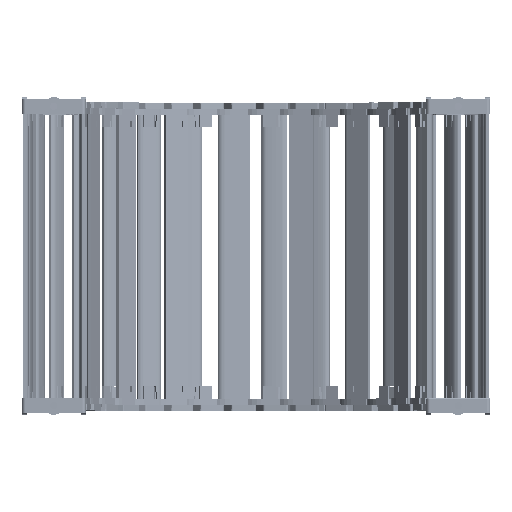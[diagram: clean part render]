
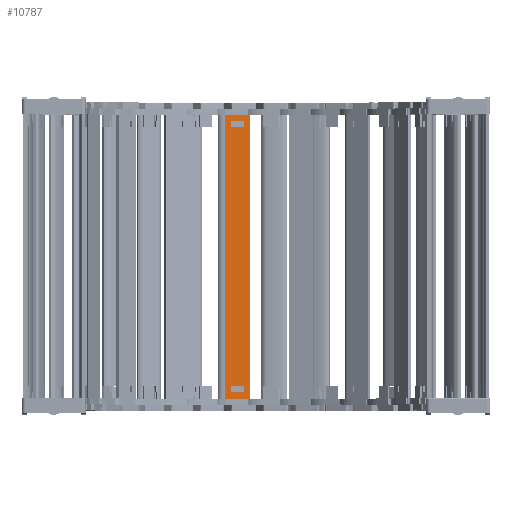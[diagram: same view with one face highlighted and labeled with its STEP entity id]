
A CAD part, top view. The second image highlights one B-rep face of the part: STEP entity #10787.
In plain terms, the highlighted planar face has unit normal (0.11, 0, 0.994) as drawn and (0, 1, 0) by its records, which use the part's own axes.
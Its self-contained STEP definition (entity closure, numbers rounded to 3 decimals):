
#10207=DIRECTION('',(0.,0.,1.));
#10208=VECTOR('',#10207,15.8);
#10209=CARTESIAN_POINT('',(161.24,1.5,-7.9));
#10210=LINE('',#10209,#10208);
#10211=DIRECTION('',(-1.,0.,0.));
#10212=VECTOR('',#10211,176.);
#10213=CARTESIAN_POINT('',(161.24,1.5,7.9));
#10214=LINE('',#10213,#10212);
#10215=DIRECTION('',(0.,0.,-1.));
#10216=VECTOR('',#10215,15.8);
#10217=CARTESIAN_POINT('',(-14.76,1.5,7.9));
#10218=LINE('',#10217,#10216);
#10219=DIRECTION('',(1.,0.,0.));
#10220=VECTOR('',#10219,3.648);
#10221=CARTESIAN_POINT('',(153.622,1.5,4.075));
#10222=LINE('',#10221,#10220);
#10223=DIRECTION('',(0.,0.,-1.));
#10224=VECTOR('',#10223,8.15);
#10225=CARTESIAN_POINT('',(157.27,1.5,4.075));
#10226=LINE('',#10225,#10224);
#10227=DIRECTION('',(-1.,0.,0.));
#10228=VECTOR('',#10227,3.648);
#10229=CARTESIAN_POINT('',(157.27,1.5,-4.075));
#10230=LINE('',#10229,#10228);
#10231=DIRECTION('',(0.,0.,-1.));
#10232=VECTOR('',#10231,8.15);
#10233=CARTESIAN_POINT('',(-7.142,1.5,4.075));
#10234=LINE('',#10233,#10232);
#10235=DIRECTION('',(-1.,0.,0.));
#10236=VECTOR('',#10235,3.648);
#10237=CARTESIAN_POINT('',(-7.142,1.5,-4.075));
#10238=LINE('',#10237,#10236);
#10239=DIRECTION('',(0.,0.,1.));
#10240=VECTOR('',#10239,8.15);
#10241=CARTESIAN_POINT('',(-10.79,1.5,-4.075));
#10242=LINE('',#10241,#10240);
#10243=DIRECTION('',(1.,0.,0.));
#10244=VECTOR('',#10243,3.648);
#10245=CARTESIAN_POINT('',(-10.79,1.5,4.075));
#10246=LINE('',#10245,#10244);
#10251=DIRECTION('',(-1.,0.,0.));
#10252=VECTOR('',#10251,176.);
#10253=CARTESIAN_POINT('',(161.24,1.5,-7.9));
#10254=LINE('',#10253,#10252);
#10372=DIRECTION('',(0.,0.,-1.));
#10373=VECTOR('',#10372,8.15);
#10374=CARTESIAN_POINT('',(153.622,1.5,4.075));
#10375=LINE('',#10374,#10373);
#10557=CARTESIAN_POINT('',(157.27,1.5,4.075));
#10558=VERTEX_POINT('',#10557);
#10559=CARTESIAN_POINT('',(153.622,1.5,4.075));
#10560=VERTEX_POINT('',#10559);
#10601=CARTESIAN_POINT('',(153.622,1.5,-4.075));
#10602=VERTEX_POINT('',#10601);
#10603=CARTESIAN_POINT('',(157.27,1.5,-4.075));
#10604=VERTEX_POINT('',#10603);
#10605=CARTESIAN_POINT('',(161.24,1.5,7.9));
#10607=VERTEX_POINT('',#10605);
#10609=CARTESIAN_POINT('',(161.24,1.5,-7.9));
#10610=VERTEX_POINT('',#10609);
#10633=CARTESIAN_POINT('',(-7.142,1.5,4.075));
#10634=CARTESIAN_POINT('',(-7.142,1.5,-4.075));
#10635=VERTEX_POINT('',#10633);
#10636=VERTEX_POINT('',#10634);
#10637=CARTESIAN_POINT('',(-10.79,1.5,-4.075));
#10638=VERTEX_POINT('',#10637);
#10639=CARTESIAN_POINT('',(-10.79,1.5,4.075));
#10640=VERTEX_POINT('',#10639);
#10641=CARTESIAN_POINT('',(-14.76,1.5,7.9));
#10642=VERTEX_POINT('',#10641);
#10645=CARTESIAN_POINT('',(-14.76,1.5,-7.9));
#10646=VERTEX_POINT('',#10645);
#10756=CARTESIAN_POINT('',(192.98,1.5,10.061));
#10757=DIRECTION('',(0.,-1.,0.));
#10758=DIRECTION('',(0.,0.,-1.));
#10759=AXIS2_PLACEMENT_3D('',#10756,#10757,#10758);
#10760=PLANE('',#10759);
#10761=ORIENTED_EDGE('',*,*,#10695,.T.);
#10762=ORIENTED_EDGE('',*,*,#10721,.T.);
#10763=ORIENTED_EDGE('',*,*,#10734,.T.);
#10765=ORIENTED_EDGE('',*,*,#10764,.F.);
#10766=EDGE_LOOP('',(#10761,#10762,#10763,#10765));
#10767=FACE_OUTER_BOUND('',#10766,.F.);
#10769=ORIENTED_EDGE('',*,*,#10768,.F.);
#10770=ORIENTED_EDGE('',*,*,#10658,.T.);
#10772=ORIENTED_EDGE('',*,*,#10771,.T.);
#10774=ORIENTED_EDGE('',*,*,#10773,.T.);
#10775=EDGE_LOOP('',(#10769,#10770,#10772,#10774));
#10776=FACE_BOUND('',#10775,.F.);
#10778=ORIENTED_EDGE('',*,*,#10777,.T.);
#10780=ORIENTED_EDGE('',*,*,#10779,.T.);
#10782=ORIENTED_EDGE('',*,*,#10781,.T.);
#10784=ORIENTED_EDGE('',*,*,#10783,.T.);
#10785=EDGE_LOOP('',(#10778,#10780,#10782,#10784));
#10786=FACE_BOUND('',#10785,.F.);
#10787=ADVANCED_FACE('',(#10767,#10776,#10786),#10760,.F.);
#10658=EDGE_CURVE('',#10560,#10558,#10222,.T.);
#10695=EDGE_CURVE('',#10610,#10607,#10210,.T.);
#10721=EDGE_CURVE('',#10607,#10642,#10214,.T.);
#10734=EDGE_CURVE('',#10642,#10646,#10218,.T.);
#10764=EDGE_CURVE('',#10610,#10646,#10254,.T.);
#10768=EDGE_CURVE('',#10560,#10602,#10375,.T.);
#10771=EDGE_CURVE('',#10558,#10604,#10226,.T.);
#10773=EDGE_CURVE('',#10604,#10602,#10230,.T.);
#10777=EDGE_CURVE('',#10635,#10636,#10234,.T.);
#10779=EDGE_CURVE('',#10636,#10638,#10238,.T.);
#10781=EDGE_CURVE('',#10638,#10640,#10242,.T.);
#10783=EDGE_CURVE('',#10640,#10635,#10246,.T.);
